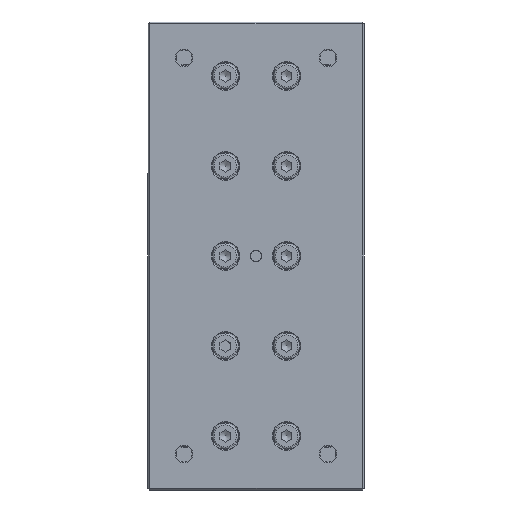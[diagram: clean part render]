
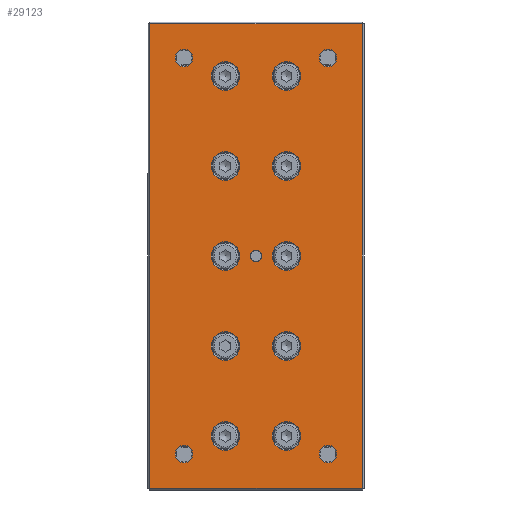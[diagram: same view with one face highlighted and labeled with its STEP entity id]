
A CAD part, front view. The second image highlights one B-rep face of the part: STEP entity #29123.
In plain terms, the highlighted planar face has unit normal (0, -1, 0).
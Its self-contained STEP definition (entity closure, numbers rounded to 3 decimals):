
#947=FACE_BOUND('',#4596,.T.);
#948=FACE_BOUND('',#4597,.T.);
#949=FACE_BOUND('',#4598,.T.);
#950=FACE_BOUND('',#4599,.T.);
#951=FACE_BOUND('',#4600,.T.);
#952=FACE_BOUND('',#4601,.T.);
#953=FACE_BOUND('',#4602,.T.);
#954=FACE_BOUND('',#4603,.T.);
#955=FACE_BOUND('',#4604,.T.);
#956=FACE_BOUND('',#4605,.T.);
#957=FACE_BOUND('',#4606,.T.);
#958=FACE_BOUND('',#4607,.T.);
#959=FACE_BOUND('',#4608,.T.);
#960=FACE_BOUND('',#4609,.T.);
#961=FACE_BOUND('',#4610,.T.);
#1725=PLANE('',#31074);
#2917=FACE_OUTER_BOUND('',#4595,.T.);
#4595=EDGE_LOOP('',(#21631,#21632,#21633,#21634));
#4596=EDGE_LOOP('',(#21635));
#4597=EDGE_LOOP('',(#21636));
#4598=EDGE_LOOP('',(#21637));
#4599=EDGE_LOOP('',(#21638));
#4600=EDGE_LOOP('',(#21639));
#4601=EDGE_LOOP('',(#21640));
#4602=EDGE_LOOP('',(#21641));
#4603=EDGE_LOOP('',(#21642));
#4604=EDGE_LOOP('',(#21643));
#4605=EDGE_LOOP('',(#21644));
#4606=EDGE_LOOP('',(#21645));
#4607=EDGE_LOOP('',(#21646));
#4608=EDGE_LOOP('',(#21647));
#4609=EDGE_LOOP('',(#21648));
#4610=EDGE_LOOP('',(#21649));
#6028=CIRCLE('',#31075,2.45);
#6029=CIRCLE('',#31076,2.45);
#6030=CIRCLE('',#31077,3.95);
#6031=CIRCLE('',#31078,3.95);
#6032=CIRCLE('',#31079,3.95);
#6033=CIRCLE('',#31080,3.95);
#6034=CIRCLE('',#31081,3.95);
#6035=CIRCLE('',#31082,1.621);
#6036=CIRCLE('',#31083,3.95);
#6037=CIRCLE('',#31084,3.95);
#6038=CIRCLE('',#31085,3.95);
#6039=CIRCLE('',#31086,3.95);
#6040=CIRCLE('',#31087,3.95);
#6041=CIRCLE('',#31088,2.45);
#6042=CIRCLE('',#31089,2.45);
#7596=LINE('',#44245,#10122);
#7598=LINE('',#44248,#10124);
#7599=LINE('',#44250,#10125);
#7605=LINE('',#44261,#10131);
#10122=VECTOR('',#35192,10.);
#10124=VECTOR('',#35196,10.);
#10125=VECTOR('',#35199,10.);
#10131=VECTOR('',#35215,10.);
#12743=VERTEX_POINT('',#44213);
#12745=VERTEX_POINT('',#44219);
#12750=VERTEX_POINT('',#44233);
#12752=VERTEX_POINT('',#44238);
#12755=VERTEX_POINT('',#44281);
#12756=VERTEX_POINT('',#44283);
#12757=VERTEX_POINT('',#44285);
#12758=VERTEX_POINT('',#44287);
#12759=VERTEX_POINT('',#44289);
#12760=VERTEX_POINT('',#44291);
#12761=VERTEX_POINT('',#44293);
#12762=VERTEX_POINT('',#44295);
#12763=VERTEX_POINT('',#44297);
#12764=VERTEX_POINT('',#44299);
#12765=VERTEX_POINT('',#44301);
#12766=VERTEX_POINT('',#44303);
#12767=VERTEX_POINT('',#44305);
#12768=VERTEX_POINT('',#44307);
#12769=VERTEX_POINT('',#44309);
#15979=EDGE_CURVE('',#12745,#12752,#7596,.T.);
#15981=EDGE_CURVE('',#12752,#12750,#7598,.T.);
#15982=EDGE_CURVE('',#12750,#12743,#7599,.T.);
#15988=EDGE_CURVE('',#12743,#12745,#7605,.T.);
#15998=EDGE_CURVE('',#12755,#12755,#6028,.T.);
#15999=EDGE_CURVE('',#12756,#12756,#6029,.T.);
#16000=EDGE_CURVE('',#12757,#12757,#6030,.T.);
#16001=EDGE_CURVE('',#12758,#12758,#6031,.T.);
#16002=EDGE_CURVE('',#12759,#12759,#6032,.T.);
#16003=EDGE_CURVE('',#12760,#12760,#6033,.T.);
#16004=EDGE_CURVE('',#12761,#12761,#6034,.T.);
#16005=EDGE_CURVE('',#12762,#12762,#6035,.T.);
#16006=EDGE_CURVE('',#12763,#12763,#6036,.T.);
#16007=EDGE_CURVE('',#12764,#12764,#6037,.T.);
#16008=EDGE_CURVE('',#12765,#12765,#6038,.T.);
#16009=EDGE_CURVE('',#12766,#12766,#6039,.T.);
#16010=EDGE_CURVE('',#12767,#12767,#6040,.T.);
#16011=EDGE_CURVE('',#12768,#12768,#6041,.T.);
#16012=EDGE_CURVE('',#12769,#12769,#6042,.T.);
#21631=ORIENTED_EDGE('',*,*,#15979,.F.);
#21632=ORIENTED_EDGE('',*,*,#15988,.F.);
#21633=ORIENTED_EDGE('',*,*,#15982,.F.);
#21634=ORIENTED_EDGE('',*,*,#15981,.F.);
#21635=ORIENTED_EDGE('',*,*,#15998,.F.);
#21636=ORIENTED_EDGE('',*,*,#15999,.F.);
#21637=ORIENTED_EDGE('',*,*,#16000,.F.);
#21638=ORIENTED_EDGE('',*,*,#16001,.F.);
#21639=ORIENTED_EDGE('',*,*,#16002,.F.);
#21640=ORIENTED_EDGE('',*,*,#16003,.F.);
#21641=ORIENTED_EDGE('',*,*,#16004,.F.);
#21642=ORIENTED_EDGE('',*,*,#16005,.T.);
#21643=ORIENTED_EDGE('',*,*,#16006,.F.);
#21644=ORIENTED_EDGE('',*,*,#16007,.F.);
#21645=ORIENTED_EDGE('',*,*,#16008,.F.);
#21646=ORIENTED_EDGE('',*,*,#16009,.F.);
#21647=ORIENTED_EDGE('',*,*,#16010,.F.);
#21648=ORIENTED_EDGE('',*,*,#16011,.F.);
#21649=ORIENTED_EDGE('',*,*,#16012,.F.);
#29123=ADVANCED_FACE('',(#2917,#947,#948,#949,#950,#951,#952,#953,#954,
#955,#956,#957,#958,#959,#960,#961),#1725,.T.);
#31074=AXIS2_PLACEMENT_3D('',#44280,#35241,#35242);
#31075=AXIS2_PLACEMENT_3D('',#44282,#35243,#35244);
#31076=AXIS2_PLACEMENT_3D('',#44284,#35245,#35246);
#31077=AXIS2_PLACEMENT_3D('',#44286,#35247,#35248);
#31078=AXIS2_PLACEMENT_3D('',#44288,#35249,#35250);
#31079=AXIS2_PLACEMENT_3D('',#44290,#35251,#35252);
#31080=AXIS2_PLACEMENT_3D('',#44292,#35253,#35254);
#31081=AXIS2_PLACEMENT_3D('',#44294,#35255,#35256);
#31082=AXIS2_PLACEMENT_3D('',#44296,#35257,#35258);
#31083=AXIS2_PLACEMENT_3D('',#44298,#35259,#35260);
#31084=AXIS2_PLACEMENT_3D('',#44300,#35261,#35262);
#31085=AXIS2_PLACEMENT_3D('',#44302,#35263,#35264);
#31086=AXIS2_PLACEMENT_3D('',#44304,#35265,#35266);
#31087=AXIS2_PLACEMENT_3D('',#44306,#35267,#35268);
#31088=AXIS2_PLACEMENT_3D('',#44308,#35269,#35270);
#31089=AXIS2_PLACEMENT_3D('',#44310,#35271,#35272);
#35192=DIRECTION('',(-1.,0.,0.));
#35196=DIRECTION('',(0.,0.,1.));
#35199=DIRECTION('',(1.,0.,0.));
#35215=DIRECTION('',(0.,0.,-1.));
#35241=DIRECTION('center_axis',(0.,-1.,0.));
#35242=DIRECTION('ref_axis',(1.,0.,0.));
#35243=DIRECTION('center_axis',(0.,-1.,0.));
#35244=DIRECTION('ref_axis',(1.,0.,0.));
#35245=DIRECTION('center_axis',(0.,-1.,0.));
#35246=DIRECTION('ref_axis',(1.,0.,0.));
#35247=DIRECTION('center_axis',(0.,-1.,0.));
#35248=DIRECTION('ref_axis',(-1.,0.,0.));
#35249=DIRECTION('center_axis',(0.,-1.,0.));
#35250=DIRECTION('ref_axis',(-1.,0.,0.));
#35251=DIRECTION('center_axis',(0.,-1.,0.));
#35252=DIRECTION('ref_axis',(-1.,0.,0.));
#35253=DIRECTION('center_axis',(0.,-1.,0.));
#35254=DIRECTION('ref_axis',(-1.,0.,0.));
#35255=DIRECTION('center_axis',(0.,-1.,0.));
#35256=DIRECTION('ref_axis',(-1.,0.,0.));
#35257=DIRECTION('center_axis',(0.,1.,0.));
#35258=DIRECTION('ref_axis',(1.,0.,0.));
#35259=DIRECTION('center_axis',(0.,-1.,0.));
#35260=DIRECTION('ref_axis',(-1.,0.,0.));
#35261=DIRECTION('center_axis',(0.,-1.,0.));
#35262=DIRECTION('ref_axis',(-1.,0.,0.));
#35263=DIRECTION('center_axis',(0.,-1.,0.));
#35264=DIRECTION('ref_axis',(-1.,0.,0.));
#35265=DIRECTION('center_axis',(0.,-1.,0.));
#35266=DIRECTION('ref_axis',(-1.,0.,0.));
#35267=DIRECTION('center_axis',(0.,-1.,0.));
#35268=DIRECTION('ref_axis',(-1.,0.,0.));
#35269=DIRECTION('center_axis',(0.,-1.,0.));
#35270=DIRECTION('ref_axis',(1.,0.,0.));
#35271=DIRECTION('center_axis',(0.,-1.,0.));
#35272=DIRECTION('ref_axis',(1.,0.,0.));
#44213=CARTESIAN_POINT('',(34.886,-24.507,38.622));
#44219=CARTESIAN_POINT('',(34.886,-24.507,-90.378));
#44233=CARTESIAN_POINT('',(-24.114,-24.507,38.622));
#44238=CARTESIAN_POINT('',(-24.114,-24.507,-90.378));
#44245=CARTESIAN_POINT('',(-9.614,-24.507,-90.378));
#44248=CARTESIAN_POINT('',(-24.114,-24.507,-90.878));
#44250=CARTESIAN_POINT('',(-9.614,-24.507,38.622));
#44261=CARTESIAN_POINT('',(34.886,-24.507,-90.878));
#44280=CARTESIAN_POINT('Origin',(-24.614,-24.507,-90.878));
#44281=CARTESIAN_POINT('',(-17.064,-24.507,29.122));
#44282=CARTESIAN_POINT('Origin',(-14.614,-24.507,29.122));
#44283=CARTESIAN_POINT('',(-17.064,-24.507,-80.878));
#44284=CARTESIAN_POINT('Origin',(-14.614,-24.507,-80.878));
#44285=CARTESIAN_POINT('',(0.836,-24.507,24.122));
#44286=CARTESIAN_POINT('Origin',(-3.114,-24.507,24.122));
#44287=CARTESIAN_POINT('',(0.836,-24.507,-0.878));
#44288=CARTESIAN_POINT('Origin',(-3.114,-24.507,-0.878));
#44289=CARTESIAN_POINT('',(0.836,-24.507,-25.878));
#44290=CARTESIAN_POINT('Origin',(-3.114,-24.507,-25.878));
#44291=CARTESIAN_POINT('',(0.836,-24.507,-50.878));
#44292=CARTESIAN_POINT('Origin',(-3.114,-24.507,-50.878));
#44293=CARTESIAN_POINT('',(0.836,-24.507,-75.878));
#44294=CARTESIAN_POINT('Origin',(-3.114,-24.507,-75.878));
#44295=CARTESIAN_POINT('',(3.765,-24.507,-25.878));
#44296=CARTESIAN_POINT('Origin',(5.386,-24.507,-25.878));
#44297=CARTESIAN_POINT('',(17.836,-24.507,-75.878));
#44298=CARTESIAN_POINT('Origin',(13.886,-24.507,-75.878));
#44299=CARTESIAN_POINT('',(17.836,-24.507,-50.878));
#44300=CARTESIAN_POINT('Origin',(13.886,-24.507,-50.878));
#44301=CARTESIAN_POINT('',(17.836,-24.507,-25.878));
#44302=CARTESIAN_POINT('Origin',(13.886,-24.507,-25.878));
#44303=CARTESIAN_POINT('',(17.836,-24.507,-0.878));
#44304=CARTESIAN_POINT('Origin',(13.886,-24.507,-0.878));
#44305=CARTESIAN_POINT('',(17.836,-24.507,24.122));
#44306=CARTESIAN_POINT('Origin',(13.886,-24.507,24.122));
#44307=CARTESIAN_POINT('',(22.936,-24.507,-80.878));
#44308=CARTESIAN_POINT('Origin',(25.386,-24.507,-80.878));
#44309=CARTESIAN_POINT('',(22.936,-24.507,29.122));
#44310=CARTESIAN_POINT('Origin',(25.386,-24.507,29.122));
